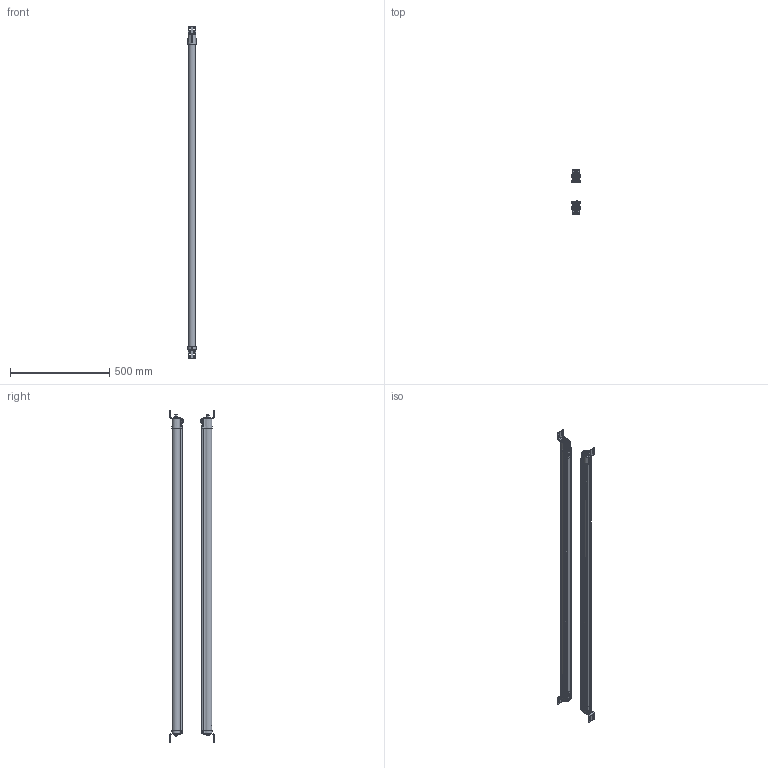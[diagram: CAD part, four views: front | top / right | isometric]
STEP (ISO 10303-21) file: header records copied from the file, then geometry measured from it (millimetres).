
FILE_DESCRIPTION((''),'2;1');
FILE_NAME('440L-C4J0800YD_SW0009','2024-07-31T20:05:53',('AKhan24'),('Rockwell Automation'),'CREO PARAMETRIC BY PTC INC, 2022424','CREO PARAMETRIC BY PTC INC, 2022424','');
FILE_SCHEMA(('AUTOMOTIVE_DESIGN { 1 0 10303 214 1 1 1 1 }'));
Length unit declared in the file: millimetre
Products named in the file (1): 440L-C4J0800YD_SW0009
Bounding box: 42.01 x 224.17 x 1672 mm (x, y, z)
Volume: 1528998.6 mm3; surface area: 1328776 mm2
Topology: 2 solids, 2 shells, 3749 faces, 9728 edges, 6136 vertices
Faces by surface type: plane 1464, cylinder 1224, torus 435, cone 372, bspline 158, sphere 96
Entity records: 217026 total; most frequent: CARTESIAN_POINT 68582, DIRECTION 19962, ORIENTED_EDGE 19448, PRESENTATION_STYLE_ASSIGNMENT 13475, STYLED_ITEM 9726, CURVE_STYLE 9724, EDGE_CURVE 9724, AXIS2_PLACEMENT_3D 7808
